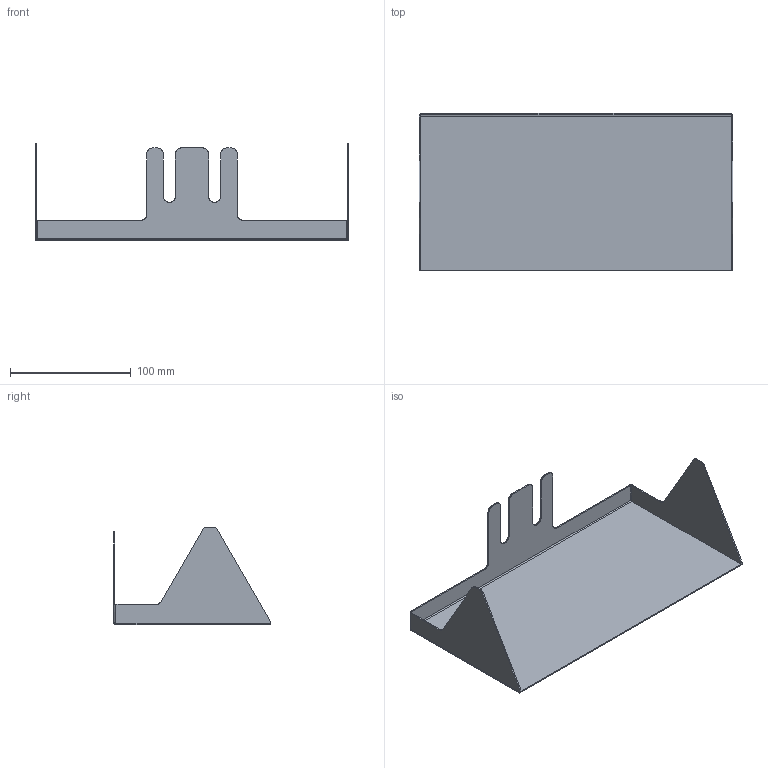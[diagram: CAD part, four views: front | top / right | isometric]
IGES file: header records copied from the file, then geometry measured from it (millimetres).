
Start section: SolidWorks IGES file using analytic representation for surfaces
Global section: file name: C:\Users\User2\Desktop\Lego IGS\Àíòèîñëåïëÿþùèé ýêðàí Lego 6x2.IGS; native system: SolidWorks 2024; preprocessor: SolidWorks 2024; author: User2; date: 251022.124731; units: millimetre
Bounding box: 260 x 130 x 81 mm (x, y, z)
Surface area: 104460.1 mm2 (no closed solid volume)
Topology: 0 solids, 0 shells, 63 faces, 602 edges, 602 vertices
Faces by surface type: bspline 41, revolution 22
